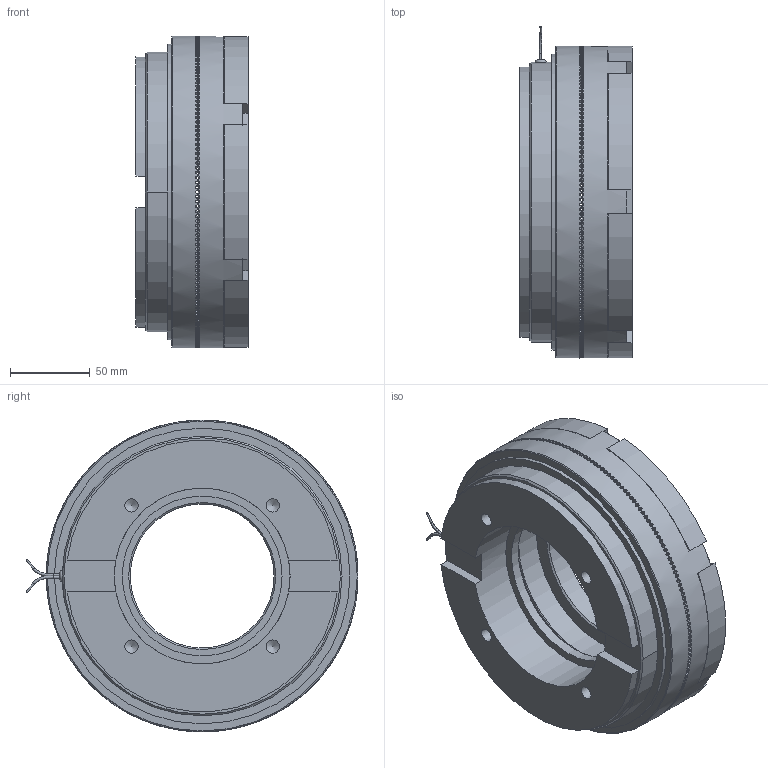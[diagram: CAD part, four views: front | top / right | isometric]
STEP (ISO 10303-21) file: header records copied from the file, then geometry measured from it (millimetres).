
FILE_DESCRIPTION(/* description */ (''),/* implementation_level */ '2;1');
FILE_NAME(/* name */ 'X:\INVENTOR\DISEGNI\07_Innesti_Elettmag_a_Dentini\07_09 EBLF_Z\07_09_194_01 EBLF194_Z\07_09_194_01 EBLF194_Z.stp',/* time_stamp */ '2023-02-13T11:17:52+01:00',/* author */ ('alessio'),/* organization */ (''),/* preprocessor_version */ 'ST-DEVELOPER v18.1',/* originating_system */ 'Autodesk Inventor 2021',/* authorisation */ '');
FILE_SCHEMA (('AUTOMOTIVE_DESIGN { 1 0 10303 214 3 1 1 }'));
Products named in the file (1): 07_09_194_01 EBLF194_Z
Bounding box: 70.2 x 207.72 x 195 mm (x, y, z)
Volume: 1275302.8 mm3; surface area: 236983.7 mm2
Topology: 4 solids, 7 shells, 1967 faces, 5765 edges, 3815 vertices
Faces by surface type: plane 1803, cylinder 95, bspline 41, cone 22, torus 6
Full cylindrical faces by diameter (mm): 1.154 x2, 1.5 x1, 4 x3, 4.917 x6, 6 x1, 7.9 x3, 8.376 x4, 8.5 x3, 12 x3, 13 x3, 90 x1, 100 x1, 110 x3, 136 x2, 137 x1, 159 x1, 160 x2, 178 x1, 181 x1, 182.5 x2, 185 x1, 195 x2
Entity records: 73038 total; most frequent: CARTESIAN_POINT 15517, DIRECTION 13088, ORIENTED_EDGE 11518, EDGE_CURVE 5759, AXIS2_PLACEMENT_3D 5499, VERTEX_POINT 3815, ELLIPSE 2429, LINE 2090
